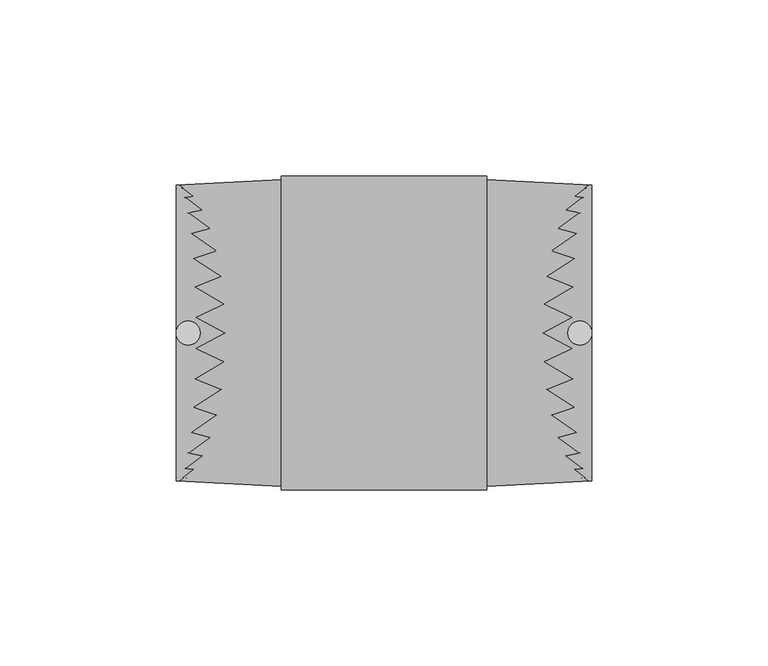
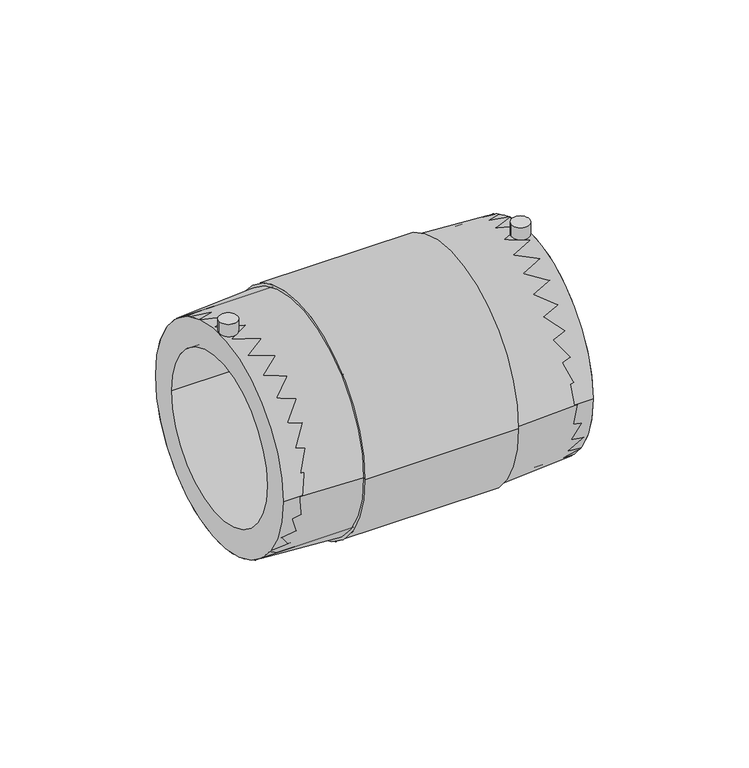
"""IFC4 building model written with IfcOpenShell, lengths in millimetres: pipe fitting geometry, EGB_VASEN_ PPR_Manguito electrosoldable WXRD100 : Manguito electrosoldable WXRD100."""

import ifcopenshell
import ifcopenshell.guid

model = None  # the IFC model being written
_history = None  # IfcOwnerHistory: only IFC2X3 demands one
_inside = {}  # id of a spatial element -> (the spatial element, [elements in it])
_under = {}  # id of a project, library or spatial element -> (it, [spatial elements below it])
_declared = {}  # id of a project -> (the project, [libraries it declares])
_typed = {}  # id of a type object -> (the type object, [elements of that type])
_made_of = {}  # id of a material, layer set ... -> (it, [elements and type objects made of it])


def new_model(schema):
    """Start an empty IFC model of exactly this schema.

    Asked for "IFC4X3", IfcOpenShell would pick the latest addendum, in which some entities
    have other attributes; the version numbers below select the first issue.
    IFC2X3 requires an IfcOwnerHistory on every rooted entity: one is made here for all.
    """
    global model, _history
    if schema == "IFC4X3":
        model = ifcopenshell.file(schema_version=(4, 3, 0, 0))
    else:
        model = ifcopenshell.file(schema=schema)
    _inside.clear()
    _under.clear()
    _declared.clear()
    _typed.clear()
    _made_of.clear()
    _history = None
    if model.schema == "IFC2X3":
        org = make("IfcOrganization", Name="unknown")
        user = make(
            "IfcPersonAndOrganization",
            ThePerson=make("IfcPerson", FamilyName="unknown"),
            TheOrganization=org,
        )
        app = make(
            "IfcApplication",
            ApplicationDeveloper=org,
            Version="unknown",
            ApplicationFullName="unknown",
            ApplicationIdentifier="unknown",
        )
        _history = make(
            "IfcOwnerHistory",
            OwningUser=user,
            OwningApplication=app,
            ChangeAction="ADDED",
            CreationDate=0,
        )
    return model


def make(cls, **values):
    """One entity of the class cls with the attributes given. An attribute that is None is left unset."""
    return model.create_entity(
        cls, **{name: value for name, value in values.items() if value is not None}
    )


def rooted(cls, **values):
    """An entity with a GlobalId (a new one), such as an element, a storey or a relation."""
    return make(cls, GlobalId=ifcopenshell.guid.new(), OwnerHistory=_history, **values)


def si_unit(unit_type, name, prefix=None):
    """IfcSIUnit, for example si_unit("LENGTHUNIT", "METRE", prefix="MILLI")."""
    return make("IfcSIUnit", UnitType=unit_type, Prefix=prefix, Name=name)


def assignment(units):
    """IfcUnitAssignment: the units of a project."""
    return None if units is None else make("IfcUnitAssignment", Units=units)


def point(xyz):
    """IfcCartesianPoint."""
    return None if xyz is None else make("IfcCartesianPoint", Coordinates=xyz)


def direction(xyz):
    """IfcDirection."""
    return None if xyz is None else make("IfcDirection", DirectionRatios=xyz)


def frame(location, z_axis=None, x_axis=None):
    """IfcAxis2Placement3D, a coordinate frame: its origin and axes. An axis left out is left unset."""
    return make(
        "IfcAxis2Placement3D",
        Location=point(location),
        Axis=direction(z_axis),
        RefDirection=direction(x_axis),
    )


def frame_2d(location, x_axis=None):
    """IfcAxis2Placement2D, a coordinate frame in the plane: its origin and x axis."""
    return make(
        "IfcAxis2Placement2D", Location=point(location), RefDirection=direction(x_axis)
    )


def origin():
    """The frame at (0, 0, 0) with its axes left unset."""
    return frame((0.0, 0.0, 0.0))


def origin_2d():
    """The frame at (0, 0) in the plane with its x axis left unset."""
    return frame_2d((0.0, 0.0))


def place(relative_to, where):
    """IfcLocalPlacement: puts the frame where relative to a parent placement (None: the world)."""
    return make(
        "IfcLocalPlacement", PlacementRelTo=relative_to, RelativePlacement=where
    )


def context(
    kind, dimensions, precision=None, world=None, true_north=None, identifier=None
):
    """IfcGeometricRepresentationContext, for example the 3D "Model" context."""
    return make(
        "IfcGeometricRepresentationContext",
        ContextIdentifier=identifier,
        ContextType=kind,
        CoordinateSpaceDimension=dimensions,
        Precision=precision,
        WorldCoordinateSystem=world,
        TrueNorth=true_north,
    )


def project(units=None, contexts=None):
    """IfcProject with its units and contexts."""
    return rooted(
        "IfcProject",
        Name="project",
        RepresentationContexts=contexts,
        UnitsInContext=assignment(units),
    )


def spatial(cls, under=None, at=None, **own):
    """A site, building, storey or space (cls), placed at a placement, below another one or the project."""
    s = rooted(cls, ObjectPlacement=at, **own)
    if under is not None:
        _under.setdefault(under.id(), (under, []))[1].append(s)
    return s


def polyline(points):
    """IfcPolyline through the points."""
    return make("IfcPolyline", Points=[point(p) for p in points])


def circle_curve(where, radius):
    """IfcCircle in the frame where."""
    return make("IfcCircle", Position=where, Radius=radius)


def trimmed(basis, trim1, trim2, sense, master):
    """IfcTrimmedCurve: the piece of a basis curve between two trims."""
    return make(
        "IfcTrimmedCurve",
        BasisCurve=basis,
        Trim1=trim1,
        Trim2=trim2,
        SenseAgreement=sense,
        MasterRepresentation=master,
    )


def segment(curve, same_sense, transition):
    """IfcCompositeCurveSegment."""
    return make(
        "IfcCompositeCurveSegment",
        Transition=transition,
        SameSense=same_sense,
        ParentCurve=curve,
    )


def composite_curve(segments, self_intersect=None):
    """IfcCompositeCurve: segments joined end to end."""
    return make("IfcCompositeCurve", Segments=segments, SelfIntersect=self_intersect)


def outline(outer, holes=None, kind="AREA"):
    """IfcArbitraryClosedProfileDef: a profile drawn as a closed curve; with holes, ...WithVoids."""
    if holes is None:
        return make("IfcArbitraryClosedProfileDef", ProfileType=kind, OuterCurve=outer)
    return make(
        "IfcArbitraryProfileDefWithVoids",
        ProfileType=kind,
        OuterCurve=outer,
        InnerCurves=holes,
    )


def extrude(swept, where, along, depth):
    """IfcExtrudedAreaSolid: the profile swept, set in the frame where, extruded along a direction by depth."""
    return make(
        "IfcExtrudedAreaSolid",
        SweptArea=swept,
        Position=where,
        ExtrudedDirection=direction(along),
        Depth=depth,
    )


def shape(context_of_items, identifier, shape_type, items):
    """IfcShapeRepresentation: the items that make up one representation, for example the "Body"."""
    return make(
        "IfcShapeRepresentation",
        ContextOfItems=context_of_items,
        RepresentationIdentifier=identifier,
        RepresentationType=shape_type,
        Items=items,
    )


def source(mapping_origin, context_of_items, identifier, shape_type, items):
    """IfcRepresentationMap: a shape defined once, which mapped items show again and again."""
    return make(
        "IfcRepresentationMap",
        MappingOrigin=mapping_origin,
        MappedRepresentation=shape(context_of_items, identifier, shape_type, items),
    )


def transform(
    local_origin,
    x_axis=None,
    y_axis=None,
    z_axis=None,
    scale=None,
    scale2=None,
    scale3=None,
    uniform=True,
):
    """IfcCartesianTransformationOperator3D, or its non-uniform kind. x_axis, y_axis, z_axis: its Axis1, 2, 3."""
    if uniform:
        return make(
            "IfcCartesianTransformationOperator3D",
            Axis1=direction(x_axis),
            Axis2=direction(y_axis),
            LocalOrigin=point(local_origin),
            Scale=scale,
            Axis3=direction(z_axis),
        )
    return make(
        "IfcCartesianTransformationOperator3DnonUniform",
        Axis1=direction(x_axis),
        Axis2=direction(y_axis),
        LocalOrigin=point(local_origin),
        Scale=scale,
        Axis3=direction(z_axis),
        Scale2=scale2,
        Scale3=scale3,
    )


def mapped(mapping_source, mapping_target):
    """IfcMappedItem: shows the shape of a source again, moved by a transform."""
    return make(
        "IfcMappedItem", MappingSource=mapping_source, MappingTarget=mapping_target
    )


def made_of(thing, what):
    """Note that an element or type object is made of a material, layer set ...; save() writes the relation."""
    if what is not None:
        _made_of.setdefault(what.id(), (what, []))[1].append(thing)
    return thing


def element(
    cls,
    number,
    at=None,
    inside=None,
    cuts=None,
    type_object=None,
    material=None,
    context=None,
    identifier="Body",
    shape_type=None,
    held_by="IfcProductDefinitionShape",
    body=None,
    shapes=None,
    **own,
):
    """One element of the class cls, such as IfcWall. Its Tag is "e" and its number.

    at: its placement. inside: the storey or other place that contains it. cuts: it is an
    opening in that element (IfcRelVoidsElement). A single representation is given by context,
    identifier, shape_type and body (its items); several are given by shapes. held_by: the class
    of the entity that holds the representations. save() writes the other relations.
    """
    e = rooted(cls, Tag="e%d" % number, ObjectPlacement=at, **own)
    if body is not None:
        shapes = [shape(context, identifier, shape_type, body)]
    if shapes is not None:
        e.Representation = make(held_by, Representations=shapes)
    if inside is not None:
        _inside.setdefault(inside.id(), (inside, []))[1].append(e)
    if cuts is not None:
        rooted(
            "IfcRelVoidsElement", RelatingBuildingElement=cuts, RelatedOpeningElement=e
        )
    if type_object is not None:
        _typed.setdefault(type_object.id(), (type_object, []))[1].append(e)
    return made_of(e, material)


def aggregate(whole, parts):
    """IfcRelAggregates: a whole, such as a stair, and the parts it consists of."""
    return rooted("IfcRelAggregates", RelatingObject=whole, RelatedObjects=parts)


def save(model, path):
    """Write the relations noted so far, then the file.

    IfcRelAggregates (storeys below a building ...), IfcRelContainedInSpatialStructure (elements
    in a storey), IfcRelDefinesByType, IfcRelAssociatesMaterial and IfcRelDeclares: one each for
    every whole, place, type object, material and project.
    """
    for whole, parts in _under.values():
        aggregate(whole, parts)
    for where, things in _inside.values():
        rooted(
            "IfcRelContainedInSpatialStructure",
            RelatedElements=things,
            RelatingStructure=where,
        )
    for kind, things in _typed.values():
        rooted("IfcRelDefinesByType", RelatedObjects=things, RelatingType=kind)
    for what, things in _made_of.values():
        rooted("IfcRelAssociatesMaterial", RelatedObjects=things, RelatingMaterial=what)
    for by, libraries in _declared.values():
        rooted("IfcRelDeclares", RelatingContext=by, RelatedDefinitions=libraries)
    model.write(path)


def plane_surface(at):
    """IfcPlane: the flat surface through the origin of the frame at, square to its z axis."""
    return make("IfcPlane", Position=at)


def cylinder_surface(at, radius):
    """IfcCylindricalSurface: all points at the distance radius from the z axis of the frame at."""
    return make("IfcCylindricalSurface", Position=at, Radius=radius)


def revolved_surface(curve, axis_point, axis_direction):
    """IfcSurfaceOfRevolution: the curve turned about the line through axis_point along axis_direction."""
    return make(
        "IfcSurfaceOfRevolution",
        SweptCurve=make("IfcArbitraryOpenProfileDef", ProfileType="CURVE", Curve=curve),
        AxisPosition=make("IfcAxis1Placement", Location=point(axis_point), Axis=direction(axis_direction)),
    )


def advanced_brep(points, edges, surfaces, faces):
    """IfcAdvancedBrep: a solid bounded by faces that lie on surfaces and meet in shared edges.

    An edge is (start, end): straight between two places in points (the first is 0);
    or (start, end, curve); or (start, end, curve, False) where it runs against its curve.
    A face is (place in surfaces, loops), or (place, loops, False) where it looks against
    its surface's normal. A loop lists edges by number (the first is 1), with a minus sign
    where the edge is run from its end to its start. The first loop is the outer one.
    """
    corners = [point(p) for p in points]
    vertices = [make("IfcVertexPoint", VertexGeometry=c) for c in corners]
    made = []
    for start, end, *more in edges:
        made.append(
            make(
                "IfcEdgeCurve",
                EdgeStart=vertices[start],
                EdgeEnd=vertices[end],
                EdgeGeometry=more[0] if more else make("IfcPolyline", Points=[corners[start], corners[end]]),
                SameSense=more[1] if len(more) > 1 else True,
            )
        )
    hull = []
    for where, loops, *sense in faces:
        bounds = []
        for j, loop in enumerate(loops):
            ring = [make("IfcOrientedEdge", EdgeElement=made[abs(k) - 1], Orientation=k > 0) for k in loop]
            bounds.append(
                make(
                    "IfcFaceOuterBound" if j == 0 else "IfcFaceBound",
                    Bound=make("IfcEdgeLoop", EdgeList=ring),
                    Orientation=True,
                )
            )
        hull.append(make("IfcAdvancedFace", Bounds=bounds, FaceSurface=surfaces[where], SameSense=sense[0] if sense else True))
    return make("IfcAdvancedBrep", Outer=make("IfcClosedShell", CfsFaces=hull))


def pipe_fitting_5176702e(model_context):
    return source(origin(), model_context, "Body", "SolidModel", [
        extrude(outline(composite_curve([segment(trimmed(circle_curve(origin_2d(), 42.0), [point((-42.0, 0.0))], [point((42.0, 0.0))], False, "CARTESIAN"), True, "CONTINUOUS"), segment(trimmed(circle_curve(origin_2d(), 42.0), [point((42.0, 0.0))], [point((-42.0, 0.0))], False, "CARTESIAN"), True, "CONTINUOUS")], self_intersect=False), holes=[composite_curve([segment(trimmed(circle_curve(origin_2d(), 31.5), [point((-31.5, 0.0))], [point((31.5, 0.0))], True, "CARTESIAN"), True, "CONTINUOUS"), segment(trimmed(circle_curve(origin_2d(), 31.5), [point((31.5, 0.0))], [point((-31.5, 0.0))], True, "CARTESIAN"), True, "CONTINUOUS")], self_intersect=False)]), frame((-59.0, 0.0, 0.0), z_axis=(1.0, 0.0, 0.0), x_axis=(0.0, 1.0, 0.0)), (0.0, 0.0, 1.0), 118.0),
        extrude(outline(composite_curve([segment(trimmed(circle_curve(frame_2d((-55.5878802, 0.0)), 3.4121198), [point((-59.0, 0.0))], [point((-52.1757605, 0.0))], False, "CARTESIAN"), True, "CONTINUOUS"), segment(trimmed(circle_curve(frame_2d((-55.5878802, 0.0)), 3.4121198), [point((-52.1757605, 0.0))], [point((-59.0, 0.0))], False, "CARTESIAN"), True, "CONTINUOUS")], self_intersect=False)), frame((0.0, 0.0, 33.5), z_axis=(0.0, 0.0, 1.0), x_axis=(1.0, 0.0, 0.0)), (0.0, 0.0, 1.0), 13.5),
        extrude(outline(composite_curve([segment(trimmed(circle_curve(frame_2d((55.5878802, 0.0)), 3.4121198), [point((52.1757605, 0.0))], [point((59.0, 0.0))], False, "CARTESIAN"), True, "CONTINUOUS"), segment(trimmed(circle_curve(frame_2d((55.5878802, 0.0)), 3.4121198), [point((59.0, 0.0))], [point((52.1757605, 0.0))], False, "CARTESIAN"), True, "CONTINUOUS")], self_intersect=False)), frame((0.0, 0.0, 33.5), z_axis=(0.0, 0.0, 1.0), x_axis=(1.0, 0.0, 0.0)), (0.0, 0.0, 1.0), 13.5),
        advanced_brep(
        [(29.1, -43.582849, 0.0), (29.1, 43.582849, 0.0), (59.0, 42.0, 0.0), (59.0, -42.0, 0.0), (29.1, -44.582849, 0.0), (29.1, 44.582849, 0.0), (-29.1, -44.582849, 0.0), (-29.1, 44.582849, 0.0), (-29.1, -43.582849, 0.0), (-29.1, 43.582849, 0.0), (-59.0, -42.0, 0.0), (-59.0, 42.0, 0.0)],
        [
            (0, 1, circle_curve(frame((29.1, 0.0, 0.0), z_axis=(1.0, 0.0, 0.0), x_axis=(0.0, 1.0, 0.0)), 43.582849)),
            (1, 2),
            (2, 3, circle_curve(frame((59.0, 0.0, 0.0), z_axis=(-1.0, 0.0, 0.0), x_axis=(0.0, 1.0, 0.0)), 42.0)),
            (3, 0),
            (1, 0, circle_curve(frame((29.1, 0.0, 0.0), z_axis=(1.0, 0.0, 0.0), x_axis=(0.0, 1.0, 0.0)), 43.582849)),
            (3, 2, circle_curve(frame((59.0, 0.0, 0.0), z_axis=(-1.0, 0.0, 0.0), x_axis=(0.0, 1.0, 0.0)), 42.0)),
            (4, 5, circle_curve(frame((29.1, 0.0, 0.0), z_axis=(1.0, 0.0, 0.0), x_axis=(0.0, 1.0, 0.0)), 44.582849)),
            (5, 1),
            (0, 4),
            (5, 4, circle_curve(frame((29.1, 0.0, 0.0), z_axis=(1.0, 0.0, 0.0), x_axis=(0.0, 1.0, 0.0)), 44.582849)),
            (6, 7, circle_curve(frame((-29.1, 0.0, 0.0), z_axis=(1.0, 0.0, 0.0), x_axis=(0.0, 1.0, 0.0)), 44.582849)),
            (7, 5),
            (4, 6),
            (7, 6, circle_curve(frame((-29.1, 0.0, 0.0), z_axis=(1.0, 0.0, 0.0), x_axis=(0.0, 1.0, 0.0)), 44.582849)),
            (8, 9, circle_curve(frame((-29.1, 0.0, 0.0), z_axis=(1.0, 0.0, 0.0), x_axis=(0.0, 1.0, 0.0)), 43.582849)),
            (9, 7),
            (6, 8),
            (9, 8, circle_curve(frame((-29.1, 0.0, 0.0), z_axis=(1.0, 0.0, 0.0), x_axis=(0.0, 1.0, 0.0)), 43.582849)),
            (10, 11, circle_curve(frame((-59.0, 0.0, 0.0), z_axis=(1.0, 0.0, 0.0), x_axis=(0.0, 1.0, 0.0)), 42.0)),
            (11, 9),
            (8, 10),
            (11, 10, circle_curve(frame((-59.0, 0.0, 0.0), z_axis=(1.0, 0.0, 0.0), x_axis=(0.0, 1.0, 0.0)), 42.0)),
            (2, 11),
            (10, 3),
        ],
        [
            revolved_surface(polyline([(59.0, 42.0, 0.0), (29.1, 43.582849, 0.0)]), (-52.7721997, 0.0, 0.0), (-1.0, 0.0, 0.0)),
            plane_surface(frame((29.1, 0.0, 0.0), z_axis=(1.0, 0.0, 0.0), x_axis=(0.0, 1.0, 0.0))),
            cylinder_surface(frame((-52.7721997, 0.0, 0.0), z_axis=(-1.0, 0.0, 0.0), x_axis=(0.0, 1.0, 0.0)), 44.582849),
            plane_surface(frame((-29.1, 0.0, 0.0), z_axis=(-1.0, 0.0, 0.0), x_axis=(0.0, 1.0, 0.0))),
            revolved_surface(polyline([(-29.1, 43.582849, 0.0), (-59.0, 42.0, 0.0)]), (-52.7721997, 0.0, 0.0), (-1.0, 0.0, 0.0)),
            revolved_surface(polyline([(-59.0, 42.0, 0.0), (59.0, 42.0, 0.0)]), (-52.7721997, 0.0, 0.0), (-1.0, 0.0, 0.0)),
        ],
        [
            (0, [[1, 2, 3, 4]]),
            (0, [[5, -4, 6, -2]]),
            (1, [[7, 8, -1, 9]]),
            (1, [[10, -9, -5, -8]]),
            (2, [[11, 12, -7, 13]]),
            (2, [[14, -13, -10, -12]]),
            (3, [[15, 16, -11, 17]]),
            (3, [[18, -17, -14, -16]]),
            (4, [[19, 20, -15, 21]]),
            (4, [[22, -21, -18, -20]]),
            (5, [[-3, 23, -19, 24]]),
            (5, [[-6, -24, -22, -23]]),
        ],
    ),
    ])


if __name__ == "__main__":
    model = new_model("IFC4")
    model_context = context("Model", 3, world=origin())
    ifc_project = project(units=[si_unit("LENGTHUNIT", "METRE", prefix="MILLI")], contexts=[model_context])
    site = spatial("IfcSite", under=ifc_project)
    building = spatial("IfcBuilding", under=site)
    placement = place(None, origin())
    pipe_fitting_shape = pipe_fitting_5176702e(model_context)
    element("IfcPipeFitting", 1, ObjectType="EGB_VASEN_ PPR_Manguito electrosoldable WXRD100 : Manguito electrosoldable WXRD100", at=placement, inside=building, context=model_context, shape_type="MappedRepresentation", body=[
        mapped(pipe_fitting_shape, transform((0.0, 0.0, 0.0), x_axis=(1.0, 0.0, 0.0), y_axis=(0.0, 1.0, 0.0), z_axis=(0.0, 0.0, 1.0))),
    ])
    save(model, "model.ifc")
